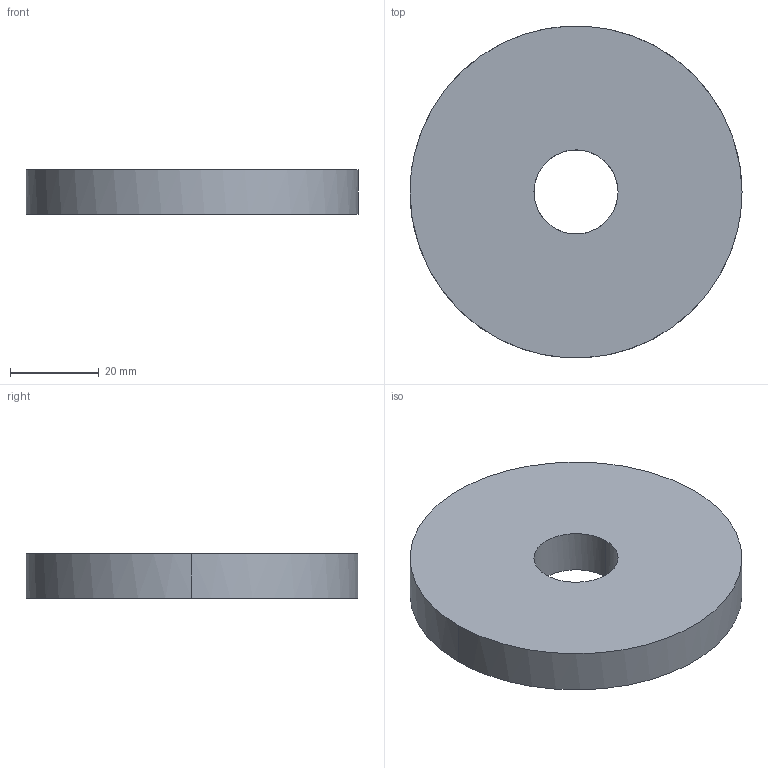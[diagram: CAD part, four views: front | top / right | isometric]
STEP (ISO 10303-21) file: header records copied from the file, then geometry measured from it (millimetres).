
FILE_DESCRIPTION(/* description */ (''),/* implementation_level */ '2;1');
FILE_NAME(/* name */ 'Material 2',/* time_stamp */ '2023-04-20T20:12:54-04:00',/* author */ (''),/* organization */ (''),/* preprocessor_version */ 'ST-DEVELOPER v15',/* originating_system */ '',/* authorisation */ '');
FILE_SCHEMA (('CONFIG_CONTROL_DESIGN'));
Length unit declared in the file: millimetre
Products named in the file (1): Document
Bounding box: 75 x 74.9 x 10 mm (x, y, z)
Volume: 41447.3 mm3; surface area: 11235.8 mm2
Topology: 1 solids, 1 shells, 7 faces, 13 edges, 9 vertices
Faces by surface type: bspline 7
Entity records: 461 total; most frequent: CARTESIAN_POINT 210, ORIENTED_EDGE 26, PCURVE 26, DEFINITIONAL_REPRESENTATION 26, B_SPLINE_CURVE_WITH_KNOTS 16, SURFACE_CURVE 13, EDGE_CURVE 13, EDGE_LOOP 10
